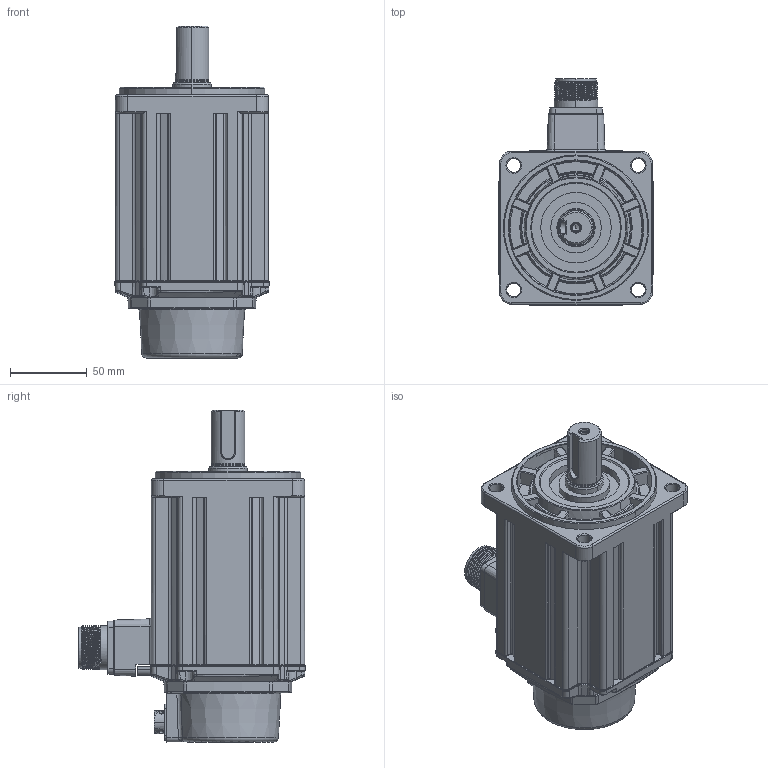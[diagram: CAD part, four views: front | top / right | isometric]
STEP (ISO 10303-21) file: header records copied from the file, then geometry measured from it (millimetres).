
FILE_DESCRIPTION((''),'2;1');
FILE_NAME('ECM-B3M-CX1020RS1','2022-05-20T13:56:10',('CHHSU.HSU'),(''),'CREO PARAMETRIC BY PTC INC, 2020454','CREO PARAMETRIC BY PTC INC, 2020454','');
FILE_SCHEMA(('AUTOMOTIVE_DESIGN { 1 0 10303 214 1 1 1 1 }'));
Products named in the file (1): ECM-B3M-CX1020RS1
Bounding box: 100.74 x 147.77 x 216.8 mm (x, y, z)
Volume: 1371832.6 mm3; surface area: 120703.2 mm2
Topology: 1 solids, 3 shells, 2044 faces, 5385 edges, 3427 vertices
Faces by surface type: plane 898, cylinder 574, cone 250, bspline 196, torus 94, sphere 16, extrusion 16
Entity records: 90681 total; most frequent: CARTESIAN_POINT 28654, ORIENTED_EDGE 10674, DIRECTION 9514, EDGE_CURVE 5337, VERTEX_POINT 3427, AXIS2_PLACEMENT_3D 3330, VECTOR 2851, LINE 2835
